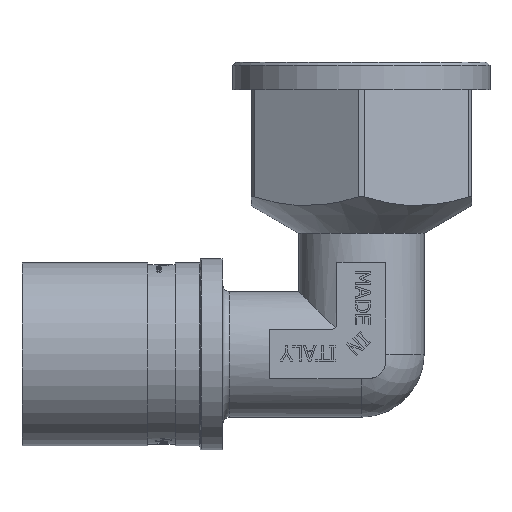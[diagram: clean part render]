
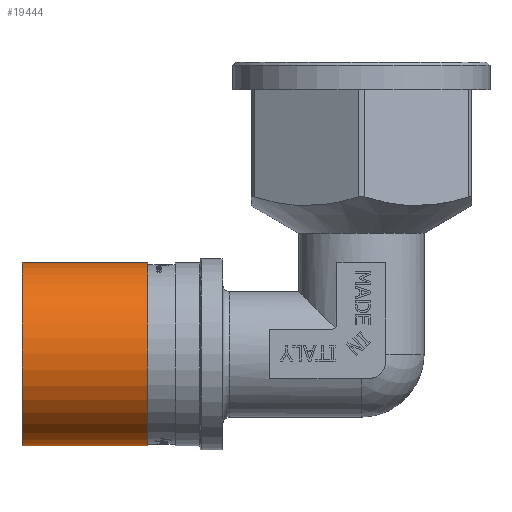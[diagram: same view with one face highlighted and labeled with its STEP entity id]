
A CAD part, top view. The second image highlights one B-rep face of the part: STEP entity #19444.
In plain terms, the highlighted cylindrical face has radius 14.925 mm (diameter 29.85 mm), a full revolution.
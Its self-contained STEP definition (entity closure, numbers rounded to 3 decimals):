
#1379=CIRCLE('',#20375,14.925);
#1380=CIRCLE('',#20376,14.925);
#1381=CIRCLE('',#20378,14.925);
#1382=CIRCLE('',#20379,14.925);
#2528=FACE_OUTER_BOUND('',#3676,.T.);
#3676=EDGE_LOOP('',(#17986,#17987,#17988,#17989,#17990,#17991));
#6165=LINE('',#43707,#7644);
#7644=VECTOR('',#23764,14.925);
#9489=VERTEX_POINT('',#43698);
#9490=VERTEX_POINT('',#43699);
#9491=VERTEX_POINT('',#43703);
#9492=VERTEX_POINT('',#43704);
#12354=EDGE_CURVE('',#9489,#9490,#1379,.T.);
#12355=EDGE_CURVE('',#9490,#9489,#1380,.T.);
#12356=EDGE_CURVE('',#9491,#9492,#1381,.T.);
#12357=EDGE_CURVE('',#9492,#9491,#1382,.T.);
#12358=EDGE_CURVE('',#9492,#9490,#6165,.T.);
#17986=ORIENTED_EDGE('',*,*,#12356,.F.);
#17987=ORIENTED_EDGE('',*,*,#12357,.F.);
#17988=ORIENTED_EDGE('',*,*,#12358,.T.);
#17989=ORIENTED_EDGE('',*,*,#12355,.T.);
#17990=ORIENTED_EDGE('',*,*,#12354,.T.);
#17991=ORIENTED_EDGE('',*,*,#12358,.F.);
#18426=CYLINDRICAL_SURFACE('',#20377,14.925);
#19444=ADVANCED_FACE('',(#2528),#18426,.T.);
#20375=AXIS2_PLACEMENT_3D('',#43700,#23754,#23755);
#20376=AXIS2_PLACEMENT_3D('',#43701,#23756,#23757);
#20377=AXIS2_PLACEMENT_3D('',#43702,#23758,#23759);
#20378=AXIS2_PLACEMENT_3D('',#43705,#23760,#23761);
#20379=AXIS2_PLACEMENT_3D('',#43706,#23762,#23763);
#23754=DIRECTION('center_axis',(1.,0.,0.));
#23755=DIRECTION('ref_axis',(0.,0.,-1.));
#23756=DIRECTION('center_axis',(1.,0.,0.));
#23757=DIRECTION('ref_axis',(0.,0.,-1.));
#23758=DIRECTION('center_axis',(1.,0.,0.));
#23759=DIRECTION('ref_axis',(0.,1.,0.));
#23760=DIRECTION('center_axis',(1.,0.,0.));
#23761=DIRECTION('ref_axis',(0.,0.,-1.));
#23762=DIRECTION('center_axis',(1.,0.,0.));
#23763=DIRECTION('ref_axis',(0.,0.,-1.));
#23764=DIRECTION('',(-1.,0.,0.));
#43698=CARTESIAN_POINT('',(-55.412,14.925,0.));
#43699=CARTESIAN_POINT('',(-55.412,-14.925,0.));
#43700=CARTESIAN_POINT('Origin',(-55.412,0.,0.));
#43701=CARTESIAN_POINT('Origin',(-55.412,0.,0.));
#43702=CARTESIAN_POINT('Origin',(-45.162,0.,0.));
#43703=CARTESIAN_POINT('',(-34.912,14.925,0.));
#43704=CARTESIAN_POINT('',(-34.912,-14.925,0.));
#43705=CARTESIAN_POINT('Origin',(-34.912,0.,0.));
#43706=CARTESIAN_POINT('Origin',(-34.912,0.,0.));
#43707=CARTESIAN_POINT('',(-45.162,-14.925,0.));
